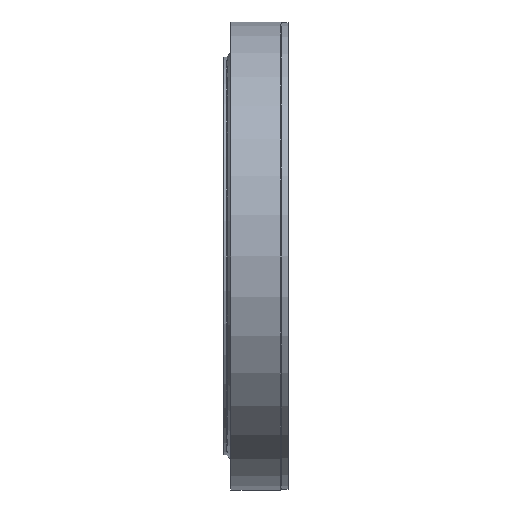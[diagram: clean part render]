
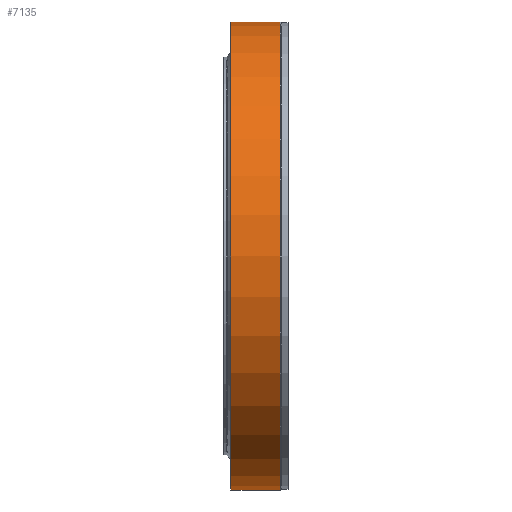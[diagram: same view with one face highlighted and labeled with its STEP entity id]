
A CAD part, left-side view. The second image highlights one B-rep face of the part: STEP entity #7135.
In plain terms, the highlighted cylindrical face has radius 340 mm (diameter 680 mm), a partial arc.
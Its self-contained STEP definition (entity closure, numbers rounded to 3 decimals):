
#161 = FACE_OUTER_BOUND ( 'NONE', #5356, .T. ) ;
#453 = VERTEX_POINT ( 'NONE', #5132 ) ;
#665 = AXIS2_PLACEMENT_3D ( 'NONE', #4889, #3178, #5640 ) ;
#759 = ORIENTED_EDGE ( 'NONE', *, *, #8837, .F. ) ;
#1005 = CIRCLE ( 'NONE', #665, 340. ) ;
#1641 = LINE ( 'NONE', #1993, #6891 ) ;
#1802 = DIRECTION ( 'NONE',  ( 0., -1., 0. ) ) ;
#1967 = EDGE_CURVE ( 'NONE', #5758, #453, #4056, .T. ) ;
#1993 = CARTESIAN_POINT ( 'NONE',  ( 0., 0., -340. ) ) ;
#2025 = DIRECTION ( 'NONE',  ( 0., -1., 0. ) ) ;
#2511 = DIRECTION ( 'NONE',  ( 0., 0., -1. ) ) ;
#3047 = ORIENTED_EDGE ( 'NONE', *, *, #1967, .F. ) ;
#3178 = DIRECTION ( 'NONE',  ( 0., -1., 0. ) ) ;
#3431 = CARTESIAN_POINT ( 'NONE',  ( 0., 0., 0. ) ) ;
#3432 = DIRECTION ( 'NONE',  ( 0., 0., -1. ) ) ;
#3441 = VECTOR ( 'NONE', #8813, 1000. ) ;
#3619 = EDGE_CURVE ( 'NONE', #5758, #7454, #8249, .T. ) ;
#3966 = VERTEX_POINT ( 'NONE', #9973 ) ;
#4056 = LINE ( 'NONE', #8970, #3441 ) ;
#4322 = AXIS2_PLACEMENT_3D ( 'NONE', #6692, #2025, #3432 ) ;
#4889 = CARTESIAN_POINT ( 'NONE',  ( 0., -117.951, 0. ) ) ;
#5085 = EDGE_CURVE ( 'NONE', #7454, #3966, #1641, .T. ) ;
#5132 = CARTESIAN_POINT ( 'NONE',  ( 0., -117.951, 340. ) ) ;
#5356 = EDGE_LOOP ( 'NONE', ( #3047, #5552, #8494, #759 ) ) ;
#5552 = ORIENTED_EDGE ( 'NONE', *, *, #3619, .T. ) ;
#5640 = DIRECTION ( 'NONE',  ( 0., 0., -1. ) ) ;
#5758 = VERTEX_POINT ( 'NONE', #10465 ) ;
#6633 = AXIS2_PLACEMENT_3D ( 'NONE', #3431, #9826, #2511 ) ;
#6692 = CARTESIAN_POINT ( 'NONE',  ( 0., -45.951, 0. ) ) ;
#6891 = VECTOR ( 'NONE', #1802, 1000. ) ;
#7135 = ADVANCED_FACE ( 'NONE', ( #161 ), #8350, .T. ) ;
#7454 = VERTEX_POINT ( 'NONE', #9866 ) ;
#8249 = CIRCLE ( 'NONE', #4322, 340. ) ;
#8350 = CYLINDRICAL_SURFACE ( 'NONE', #6633, 340. ) ;
#8494 = ORIENTED_EDGE ( 'NONE', *, *, #5085, .T. ) ;
#8813 = DIRECTION ( 'NONE',  ( 0., -1., 0. ) ) ;
#8837 = EDGE_CURVE ( 'NONE', #453, #3966, #1005, .T. ) ;
#8970 = CARTESIAN_POINT ( 'NONE',  ( 0., 0., 340. ) ) ;
#9826 = DIRECTION ( 'NONE',  ( 0., -1., 0. ) ) ;
#9866 = CARTESIAN_POINT ( 'NONE',  ( 0., -45.951, -340. ) ) ;
#9973 = CARTESIAN_POINT ( 'NONE',  ( 0., -117.951, -340. ) ) ;
#10465 = CARTESIAN_POINT ( 'NONE',  ( 0., -45.951, 340. ) ) ;
